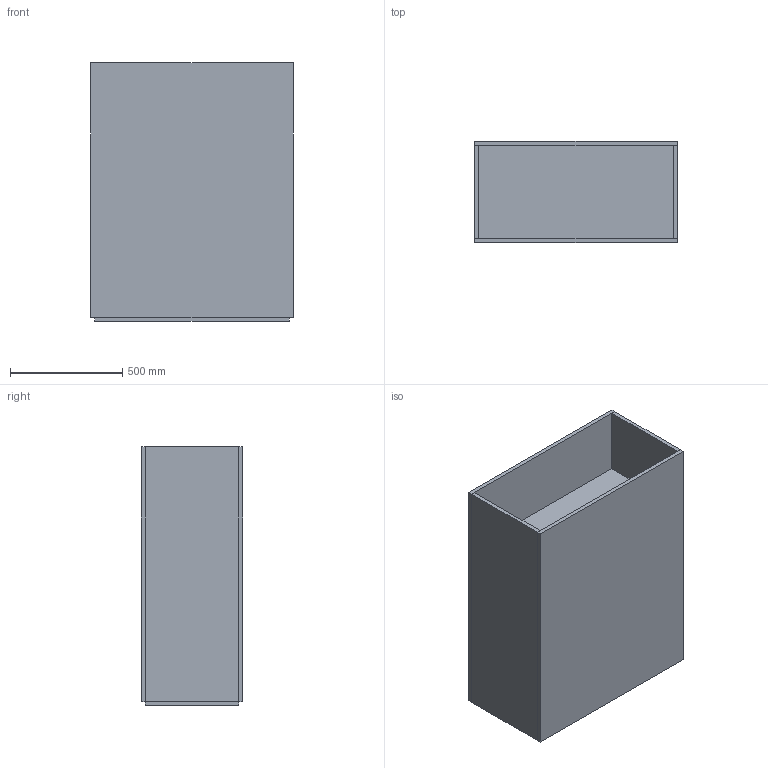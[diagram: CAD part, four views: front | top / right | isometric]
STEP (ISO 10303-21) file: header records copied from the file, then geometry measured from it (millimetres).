
FILE_DESCRIPTION(/* description */ (''),/* implementation_level */ '2;1');
FILE_NAME(/* name */ 'Tall Tambour',/* time_stamp */ '2026-06-15T16:50:08+12:00',/* author */ (''),/* organization */ (''),/* preprocessor_version */ 'ST-DEVELOPER v19.2',/* originating_system */ 'Rhino 8.31',/* authorisation */ '');
FILE_SCHEMA (('CONFIG_CONTROL_DESIGN'));
Length unit declared in the file: millimetre
Products named in the file (1): Document
Bounding box: 900 x 450 x 1150.04 mm (x, y, z)
Volume: 70222313.4 mm3; surface area: 8615477.9 mm2
Topology: 9 solids, 9 shells, 118 faces, 264 edges, 176 vertices
Faces by surface type: plane 80, cylinder 36, bspline 2
Entity records: 3350 total; most frequent: CARTESIAN_POINT 1018, ORIENTED_EDGE 528, EDGE_CURVE 264, DIRECTION 264, AXIS2_PLACEMENT_3D 190, VERTEX_POINT 176, B_SPLINE_CURVE_WITH_KNOTS 166, EDGE_LOOP 132
